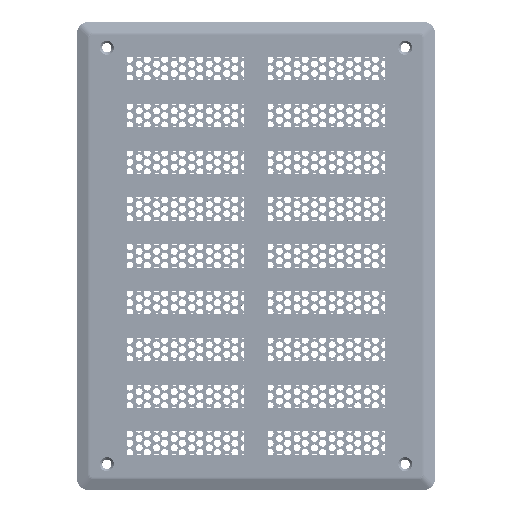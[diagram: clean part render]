
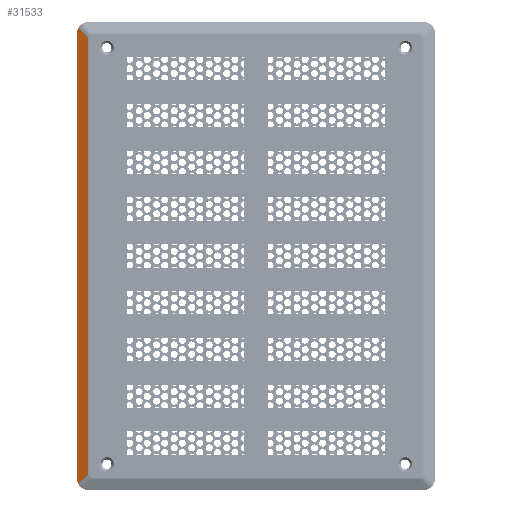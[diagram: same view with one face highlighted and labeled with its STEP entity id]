
A CAD part, top view. The second image highlights one B-rep face of the part: STEP entity #31533.
In plain terms, the highlighted planar face has unit normal (-0.371, 0, 0.928).
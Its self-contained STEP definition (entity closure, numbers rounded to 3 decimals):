
#8683=ELLIPSE('',#33255,5.385,5.);
#8684=ELLIPSE('',#33256,5.385,5.);
#8800=FACE_OUTER_BOUND('',#10500,.T.);
#10500=EDGE_LOOP('',(#24602,#24603,#24604,#24605,#24606,#24607));
#16473=LINE('',#48235,#17024);
#16476=LINE('',#48242,#17027);
#16487=LINE('',#48292,#17038);
#16489=LINE('',#48298,#17040);
#17024=VECTOR('',#38277,187.001);
#17027=VECTOR('',#38284,5.853);
#17038=VECTOR('',#38321,5.853);
#17040=VECTOR('',#38327,190.);
#17522=VERTEX_POINT('',#48183);
#17529=VERTEX_POINT('',#48229);
#17531=VERTEX_POINT('',#48238);
#17542=VERTEX_POINT('',#48290);
#17543=VERTEX_POINT('',#48295);
#17544=VERTEX_POINT('',#48297);
#20839=EDGE_CURVE('',#17522,#17529,#16473,.T.);
#20843=EDGE_CURVE('',#17529,#17531,#16476,.T.);
#20861=EDGE_CURVE('',#17542,#17522,#16487,.T.);
#20863=EDGE_CURVE('',#17543,#17542,#8683,.T.);
#20864=EDGE_CURVE('',#17543,#17544,#16489,.T.);
#20865=EDGE_CURVE('',#17531,#17544,#8684,.T.);
#24602=ORIENTED_EDGE('',*,*,#20843,.F.);
#24603=ORIENTED_EDGE('',*,*,#20839,.F.);
#24604=ORIENTED_EDGE('',*,*,#20861,.F.);
#24605=ORIENTED_EDGE('',*,*,#20863,.F.);
#24606=ORIENTED_EDGE('',*,*,#20864,.T.);
#24607=ORIENTED_EDGE('',*,*,#20865,.F.);
#31331=PLANE('',#33254);
#31533=ADVANCED_FACE('',(#8800),#31331,.F.);
#33254=AXIS2_PLACEMENT_3D('',#48294,#38323,#38324);
#33255=AXIS2_PLACEMENT_3D('',#48296,#38325,#38326);
#33256=AXIS2_PLACEMENT_3D('',#48299,#38328,#38329);
#38277=DIRECTION('',(0.,-1.,0.));
#38284=DIRECTION('',(-0.68,-0.68,-0.272));
#38321=DIRECTION('',(0.68,-0.68,0.272));
#38323=DIRECTION('center_axis',(0.371,0.,
-0.928));
#38324=DIRECTION('ref_axis',(-0.928,0.,-0.371));
#38325=DIRECTION('center_axis',(0.371,0.,
-0.928));
#38326=DIRECTION('ref_axis',(-0.928,0.,-0.371));
#38327=DIRECTION('',(0.,-1.,0.));
#38328=DIRECTION('center_axis',(0.371,0.,
-0.928));
#38329=DIRECTION('ref_axis',(-0.928,0.,-0.371));
#48183=CARTESIAN_POINT('',(-71.858,93.501,3.857));
#48229=CARTESIAN_POINT('',(-71.858,-93.501,3.857));
#48235=CARTESIAN_POINT('',(-71.858,-50.,3.857));
#48238=CARTESIAN_POINT('',(-75.84,-97.483,2.264));
#48242=CARTESIAN_POINT('',(-41.943,-63.586,15.823));
#48290=CARTESIAN_POINT('',(-75.84,97.483,2.264));
#48292=CARTESIAN_POINT('',(-31.063,52.706,20.175));
#48294=CARTESIAN_POINT('Origin',(-76.5,-100.,2.));
#48295=CARTESIAN_POINT('',(-76.5,95.,2.));
#48296=CARTESIAN_POINT('Origin',(-71.5,95.,4.));
#48297=CARTESIAN_POINT('',(-76.5,-95.,2.));
#48298=CARTESIAN_POINT('',(-76.5,100.,2.));
#48299=CARTESIAN_POINT('Origin',(-71.5,-95.,4.));
